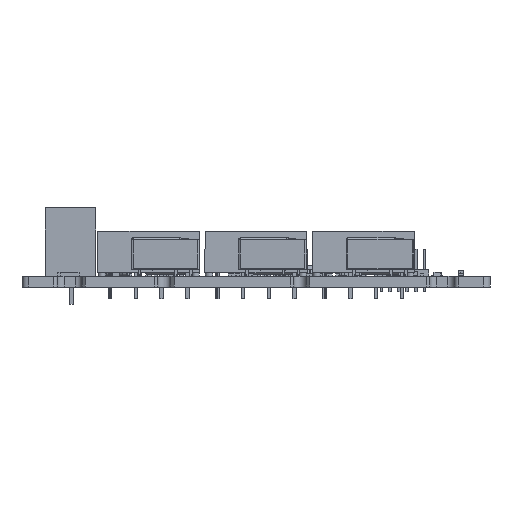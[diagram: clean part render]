
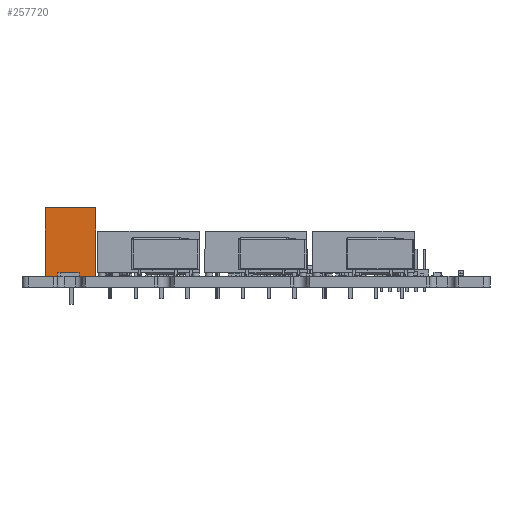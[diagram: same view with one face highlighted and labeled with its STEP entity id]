
A CAD part, left-side view. The second image highlights one B-rep face of the part: STEP entity #257720.
In plain terms, the highlighted planar face has unit normal (-1, 0, 0).
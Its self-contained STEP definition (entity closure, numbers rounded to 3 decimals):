
#257720 = ADVANCED_FACE('',(#257721),#257755,.F.);
#257721 = FACE_BOUND('',#257722,.T.);
#257722 = EDGE_LOOP('',(#257723,#257733,#257741,#257749));
#257723 = ORIENTED_EDGE('',*,*,#257724,.T.);
#257724 = EDGE_CURVE('',#257725,#257727,#257729,.T.);
#257725 = VERTEX_POINT('',#257726);
#257726 = CARTESIAN_POINT('',(67.06,65.59,
    0.));
#257727 = VERTEX_POINT('',#257728);
#257728 = CARTESIAN_POINT('',(67.06,58.09,
    0.));
#257729 = LINE('',#257730,#257731);
#257730 = CARTESIAN_POINT('',(67.06,65.59,
    0.));
#257731 = VECTOR('',#257732,1.);
#257732 = DIRECTION('',(0.,-1.,0.));
#257733 = ORIENTED_EDGE('',*,*,#257734,.F.);
#257734 = EDGE_CURVE('',#257735,#257727,#257737,.T.);
#257735 = VERTEX_POINT('',#257736);
#257736 = CARTESIAN_POINT('',(67.06,58.09,
    10.1));
#257737 = LINE('',#257738,#257739);
#257738 = CARTESIAN_POINT('',(67.06,58.09,
    10.1));
#257739 = VECTOR('',#257740,1.);
#257740 = DIRECTION('',(0.,0.,-1.));
#257741 = ORIENTED_EDGE('',*,*,#257742,.F.);
#257742 = EDGE_CURVE('',#257743,#257735,#257745,.T.);
#257743 = VERTEX_POINT('',#257744);
#257744 = CARTESIAN_POINT('',(67.06,65.59,
    10.1));
#257745 = LINE('',#257746,#257747);
#257746 = CARTESIAN_POINT('',(67.06,65.59,
    10.1));
#257747 = VECTOR('',#257748,1.);
#257748 = DIRECTION('',(0.,-1.,0.));
#257749 = ORIENTED_EDGE('',*,*,#257750,.T.);
#257750 = EDGE_CURVE('',#257743,#257725,#257751,.T.);
#257751 = LINE('',#257752,#257753);
#257752 = CARTESIAN_POINT('',(67.06,65.59,
    10.1));
#257753 = VECTOR('',#257754,1.);
#257754 = DIRECTION('',(0.,0.,-1.));
#257755 = PLANE('',#257756);
#257756 = AXIS2_PLACEMENT_3D('',#257757,#257758,#257759);
#257757 = CARTESIAN_POINT('',(67.06,65.59,
    10.1));
#257758 = DIRECTION('',(1.,0.,0.));
#257759 = DIRECTION('',(0.,1.,0.));
